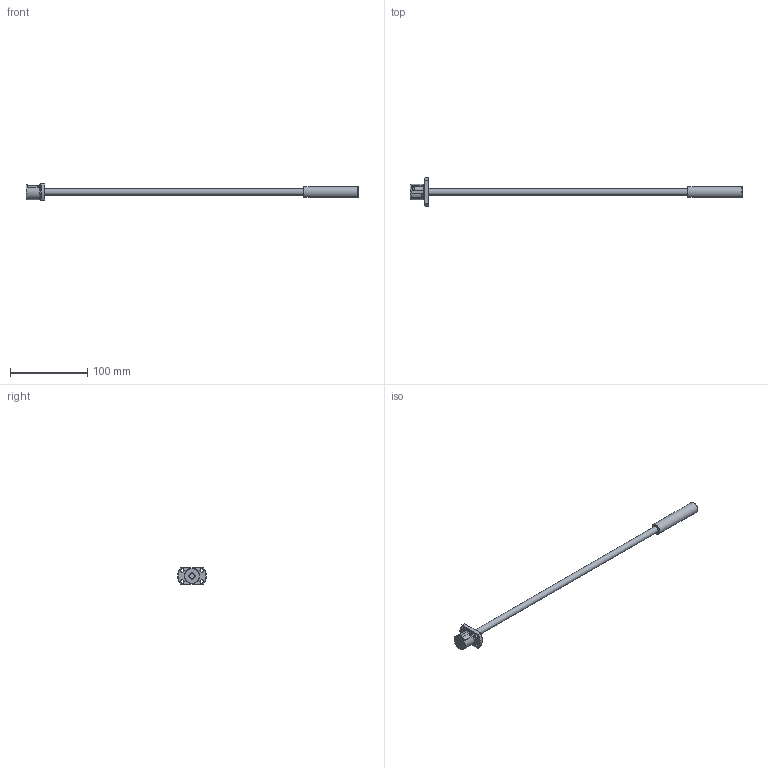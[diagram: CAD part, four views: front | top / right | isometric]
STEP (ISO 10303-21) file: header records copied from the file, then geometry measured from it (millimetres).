
FILE_DESCRIPTION( ( 'STEP AP203' ), '1' );
FILE_NAME( 'e:/temp/worker_99/temp/exporttempdir_4596_363_VAiUQ/format_0/SSRT0802-356R430C70X(0None).stp', '2021-10-19T07:49:52', ( 'License CC BY-ND 4.0' ), ( 'CADENAS' ), ' ', 'PARTsolutions', ' ' );
FILE_SCHEMA( ( 'CONFIG_CONTROL_DESIGN' ) );
Length unit declared in the file: millimetre
Products named in the file (3): SSRT0802-356R430C70X(0None); _SSRT0802-356R430Ct7NoneShaft; _SSRT0802Nut
Assembly tree (2 placements, depth 2):
  SSRT0802-356R430C70X(0None)
    _SSRT0802-356R430Ct7NoneShaft
    _SSRT0802Nut
Bounding box: 430 x 37 x 22 mm (x, y, z)
Volume: 37019.6 mm3; surface area: 16391.9 mm2
Topology: 2 solids, 2 shells, 50 faces, 126 edges, 84 vertices
Faces by surface type: plane 24, cylinder 15, cone 11
Full cylindrical faces by diameter (mm): 1 x2, 4.5 x4, 8 x2, 14.2 x1, 19.7 x1, 20 x1
Entity records: 1562 total; most frequent: CARTESIAN_POINT 365, DIRECTION 232, ORIENTED_EDGE 194, AXIS2_PLACEMENT_3D 100, EDGE_CURVE 97, EDGE_LOOP 82, VERTEX_POINT 73, FACE_OUTER_BOUND 61
